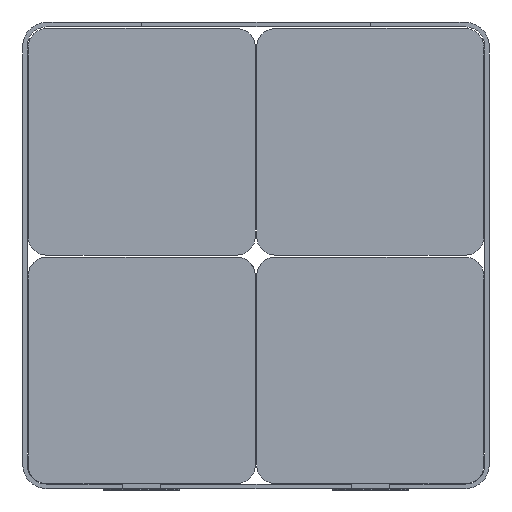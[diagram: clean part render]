
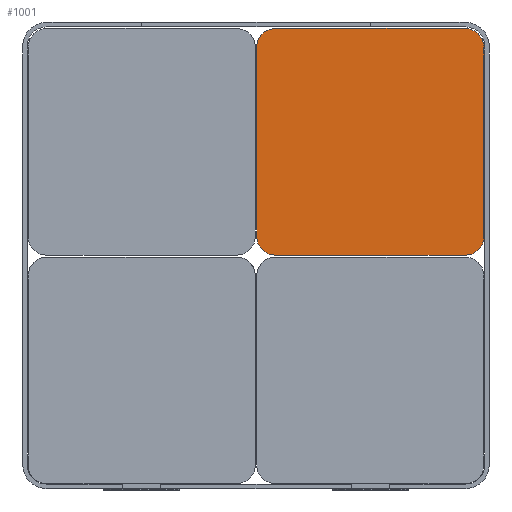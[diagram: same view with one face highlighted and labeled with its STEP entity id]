
A CAD part, left-side view. The second image highlights one B-rep face of the part: STEP entity #1001.
In plain terms, the highlighted planar face has unit normal (-1, 0, 0) as drawn and (0, -1, 0) by its records, which use the part's own axes.
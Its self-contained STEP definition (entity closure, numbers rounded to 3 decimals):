
#64=(
BOUNDED_CURVE()
B_SPLINE_CURVE(2,(#10256,#10257,#10258,#10259,#10260,#10261,#10262,#10263,
#10264),.UNSPECIFIED.,.F.,.F.)
B_SPLINE_CURVE_WITH_KNOTS((3,2,2,2,3),(0.,498.,576.54,
1074.54,1100.479),.UNSPECIFIED.)
CURVE()
GEOMETRIC_REPRESENTATION_ITEM()
RATIONAL_B_SPLINE_CURVE((1.,1.,1.,0.707,1.,1.,1.,0.968,
1.))
REPRESENTATION_ITEM('')
);
#65=(
BOUNDED_CURVE()
B_SPLINE_CURVE(2,(#10265,#10266,#10267,#10268,#10269,#10270,#10271),
 .UNSPECIFIED.,.F.,.F.)
B_SPLINE_CURVE_WITH_KNOTS((3,2,2,3),(1703.68,1729.619,
2227.619,2306.159),.UNSPECIFIED.)
CURVE()
GEOMETRIC_REPRESENTATION_ITEM()
RATIONAL_B_SPLINE_CURVE((1.,0.968,1.,1.,1.,0.707,
1.))
REPRESENTATION_ITEM('')
);
#125=TRIMMED_CURVE($,#401,(#10202),(#10203),.T.,.CARTESIAN.);
#135=TRIMMED_CURVE($,#411,(#10276),(#10277),.T.,.CARTESIAN.);
#401=CIRCLE('',#6277,50.);
#411=CIRCLE('',#6287,50.);
#1001=ADVANCED_FACE('',(#1349),#5435,.T.);
#1349=FACE_OUTER_BOUND('',#1705,.T.);
#1705=EDGE_LOOP('',(#2327,#2328,#2329,#2330,#2331));
#2327=ORIENTED_EDGE('',*,*,#3773,.T.);
#2328=ORIENTED_EDGE('',*,*,#3776,.T.);
#2329=ORIENTED_EDGE('',*,*,#3754,.T.);
#2330=ORIENTED_EDGE('',*,*,#3756,.T.);
#2331=ORIENTED_EDGE('',*,*,#3774,.T.);
#3754=EDGE_CURVE('',#4970,#4971,#4521,.T.);
#3756=EDGE_CURVE('',#4971,#4984,#125,.T.);
#3773=EDGE_CURVE('',#4985,#4983,#64,.T.);
#3774=EDGE_CURVE('',#4984,#4985,#65,.T.);
#3776=EDGE_CURVE('',#4983,#4970,#135,.T.);
#4521=B_SPLINE_CURVE_WITH_KNOTS('',1,(#10197,#10198),.UNSPECIFIED.,.F.,
 .F.,(2,2),(0.,498.),.UNSPECIFIED.);
#4970=VERTEX_POINT('',#10166);
#4971=VERTEX_POINT('',#10167);
#4983=VERTEX_POINT('',#10179);
#4984=VERTEX_POINT('',#10180);
#4985=VERTEX_POINT('',#10181);
#5435=PLANE('',#6263);
#6263=AXIS2_PLACEMENT_3D('',#10083,#6886,$);
#6277=AXIS2_PLACEMENT_3D($,#10201,#6901,#6902);
#6287=AXIS2_PLACEMENT_3D($,#10275,#6921,#6922);
#6886=DIRECTION('',(0.,-1.,0.));
#6901=DIRECTION('',(0.,-1.,0.));
#6902=DIRECTION('',(0.,0.,-1.));
#6921=DIRECTION('',(0.,-1.,0.));
#6922=DIRECTION('',(-0.857,0.,-0.515));
#10083=CARTESIAN_POINT('',(304.98,0.,5.98));
#10166=CARTESIAN_POINT('',(-249.,0.,-598.));
#10167=CARTESIAN_POINT('',(249.,0.,-598.));
#10179=CARTESIAN_POINT('',(-291.86,0.,-573.75));
#10180=CARTESIAN_POINT('',(291.86,0.,-573.75));
#10181=CARTESIAN_POINT('',(249.,0.,-3.));
#10197=CARTESIAN_POINT('',(-249.,0.,-598.));
#10198=CARTESIAN_POINT('',(249.,0.,-598.));
#10201=CARTESIAN_POINT('',(249.,0.,-548.));
#10202=CARTESIAN_POINT('',(249.,0.,-598.));
#10203=CARTESIAN_POINT('',(291.86,0.,-573.75));
#10256=CARTESIAN_POINT('',(249.,0.,-3.));
#10257=CARTESIAN_POINT('',(0.,0.,-3.));
#10258=CARTESIAN_POINT('',(-249.,0.,-3.));
#10259=CARTESIAN_POINT('',(-298.,0.,-3.));
#10260=CARTESIAN_POINT('',(-298.,0.,-52.));
#10261=CARTESIAN_POINT('',(-298.,0.,-301.));
#10262=CARTESIAN_POINT('',(-298.,0.,-550.));
#10263=CARTESIAN_POINT('',(-298.,0.,-562.669));
#10264=CARTESIAN_POINT('',(-291.86,0.,-573.75));
#10265=CARTESIAN_POINT('',(291.86,0.,-573.75));
#10266=CARTESIAN_POINT('',(298.,0.,-562.669));
#10267=CARTESIAN_POINT('',(298.,0.,-550.));
#10268=CARTESIAN_POINT('',(298.,0.,-301.));
#10269=CARTESIAN_POINT('',(298.,0.,-52.));
#10270=CARTESIAN_POINT('',(298.,0.,-3.));
#10271=CARTESIAN_POINT('',(249.,0.,-3.));
#10275=CARTESIAN_POINT('',(-249.,0.,-548.));
#10276=CARTESIAN_POINT('',(-291.86,0.,-573.75));
#10277=CARTESIAN_POINT('',(-249.,0.,-598.));
